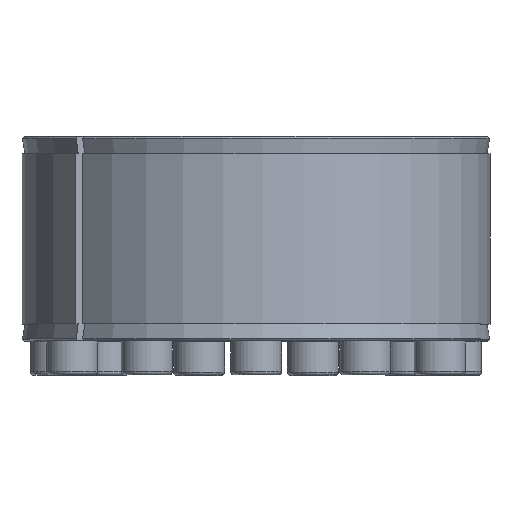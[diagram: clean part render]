
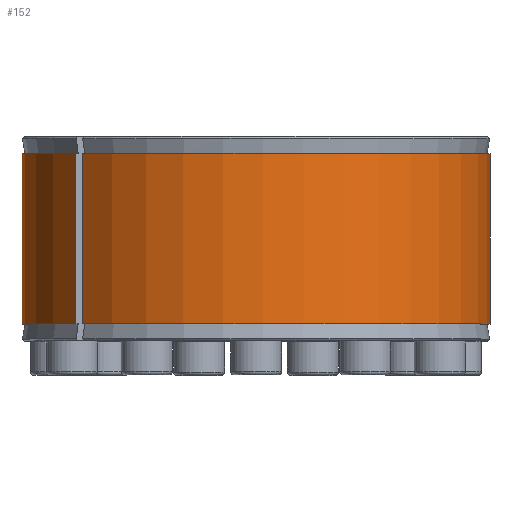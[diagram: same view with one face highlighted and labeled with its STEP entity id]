
A CAD part, top view. The second image highlights one B-rep face of the part: STEP entity #152.
In plain terms, the highlighted cylindrical face has radius 82.5 mm (diameter 165 mm), a partial arc.
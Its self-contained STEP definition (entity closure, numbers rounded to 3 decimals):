
#152 = ADVANCED_FACE( '', ( #388 ), #389, .T. );
#388 = FACE_OUTER_BOUND( '', #711, .T. );
#389 = CYLINDRICAL_SURFACE( '', #712, 82.5 );
#711 = EDGE_LOOP( '', ( #1155, #1156, #1157, #1158 ) );
#712 = AXIS2_PLACEMENT_3D( '', #1159, #1160, #1161 );
#1155 = ORIENTED_EDGE( '', *, *, #1807, .T. );
#1156 = ORIENTED_EDGE( '', *, *, #1808, .T. );
#1157 = ORIENTED_EDGE( '', *, *, #1776, .F. );
#1158 = ORIENTED_EDGE( '', *, *, #1809, .T. );
#1159 = CARTESIAN_POINT( '', ( 0., -60., 0. ) );
#1160 = DIRECTION( '', ( 0., 1., 0. ) );
#1161 = DIRECTION( '', ( 0., 0., -1. ) );
#1776 = EDGE_CURVE( '', #2180, #2181, #2182, .T. );
#1807 = EDGE_CURVE( '', #2228, #2229, #2230, .T. );
#1808 = EDGE_CURVE( '', #2229, #2181, #2231, .T. );
#1809 = EDGE_CURVE( '', #2180, #2228, #2232, .F. );
#2180 = VERTEX_POINT( '', #2763 );
#2181 = VERTEX_POINT( '', #2764 );
#2182 = CIRCLE( '', #2765, 82.5 );
#2228 = VERTEX_POINT( '', #2871 );
#2229 = VERTEX_POINT( '', #2872 );
#2230 = CIRCLE( '', #2873, 82.5 );
#2231 = LINE( '', #2874, #2875 );
#2232 = LINE( '', #2876, #2877 );
#2763 = CARTESIAN_POINT( '', ( -63.481, 6., 52.691 ) );
#2764 = CARTESIAN_POINT( '', ( -61.189, 6., 55.336 ) );
#2765 = AXIS2_PLACEMENT_3D( '', #3575, #3576, #3577 );
#2871 = CARTESIAN_POINT( '', ( -63.481, 66., 52.691 ) );
#2872 = CARTESIAN_POINT( '', ( -61.189, 66., 55.336 ) );
#2873 = AXIS2_PLACEMENT_3D( '', #3618, #3619, #3620 );
#2874 = CARTESIAN_POINT( '', ( -61.189, -60., 55.336 ) );
#2875 = VECTOR( '', #3621, 1000. );
#2876 = CARTESIAN_POINT( '', ( -63.481, -60., 52.691 ) );
#2877 = VECTOR( '', #3622, 1000. );
#3575 = CARTESIAN_POINT( '', ( 0., 6., 0. ) );
#3576 = DIRECTION( '', ( 0., -1., 0. ) );
#3577 = DIRECTION( '', ( 0., 0., -1. ) );
#3618 = CARTESIAN_POINT( '', ( 0., 66., 0. ) );
#3619 = DIRECTION( '', ( 0., -1., 0. ) );
#3620 = DIRECTION( '', ( 0., 0., -1. ) );
#3621 = DIRECTION( '', ( 0., -1., 0. ) );
#3622 = DIRECTION( '', ( 0., -1., 0. ) );
